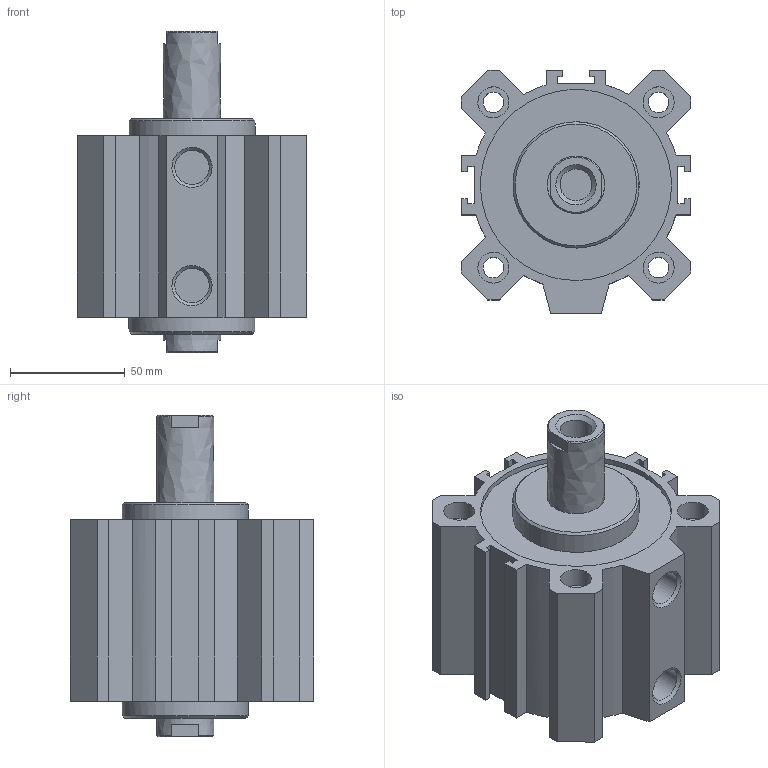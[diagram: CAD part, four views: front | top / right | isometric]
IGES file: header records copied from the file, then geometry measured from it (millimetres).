
Global section: file name: 1514_80_0030; native system: Autodesk Inventor 2014; preprocessor: unknown; author: A. Manieri; date: 20160824.142339; units: millimetre
Bounding box: 100 x 106 x 140 mm (x, y, z)
Volume: 544356.6 mm3; surface area: 123117.1 mm2
Topology: 2 solids, 2 shells, 132 faces, 346 edges, 238 vertices
Faces by surface type: bspline 132
